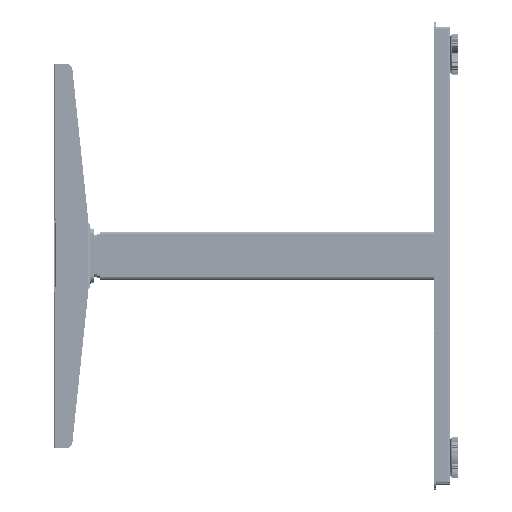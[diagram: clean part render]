
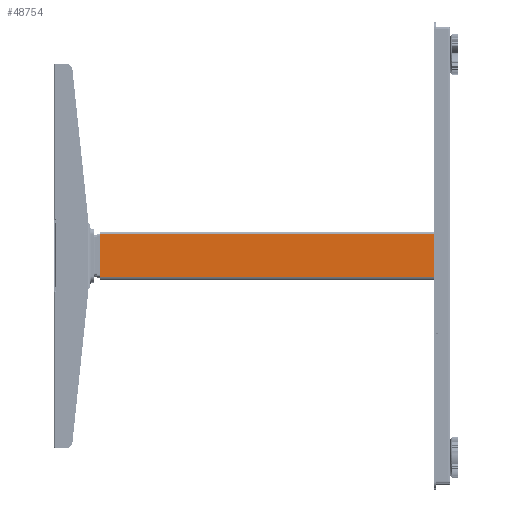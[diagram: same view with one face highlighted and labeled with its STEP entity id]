
A CAD part, top view. The second image highlights one B-rep face of the part: STEP entity #48754.
In plain terms, the highlighted planar face has unit normal (0, 0, 1) as drawn and (0, 1, 0) by its records, which use the part's own axes.
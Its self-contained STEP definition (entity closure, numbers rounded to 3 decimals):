
#47790=DIRECTION('',(-1.,0.,0.));
#47791=VECTOR('',#47790,64.);
#47792=CARTESIAN_POINT('',(32.,35.,0.));
#47793=LINE('',#47792,#47791);
#47845=DIRECTION('',(0.,0.,-1.));
#47846=VECTOR('',#47845,500.);
#47847=CARTESIAN_POINT('',(32.,35.,500.));
#47848=LINE('',#47847,#47846);
#47877=DIRECTION('',(0.,0.,1.));
#47878=VECTOR('',#47877,500.);
#47879=CARTESIAN_POINT('',(-32.,35.,0.));
#47880=LINE('',#47879,#47878);
#47885=DIRECTION('',(-1.,0.,0.));
#47886=VECTOR('',#47885,64.);
#47887=CARTESIAN_POINT('',(32.,35.,500.));
#47888=LINE('',#47887,#47886);
#48410=CARTESIAN_POINT('',(32.,35.,0.));
#48412=VERTEX_POINT('',#48410);
#48413=CARTESIAN_POINT('',(-32.,35.,0.));
#48414=VERTEX_POINT('',#48413);
#48443=CARTESIAN_POINT('',(32.,35.,500.));
#48444=VERTEX_POINT('',#48443);
#48455=CARTESIAN_POINT('',(-32.,35.,500.));
#48456=VERTEX_POINT('',#48455);
#48742=CARTESIAN_POINT('',(35.,35.,0.));
#48743=DIRECTION('',(0.,1.,0.));
#48744=DIRECTION('',(-1.,0.,0.));
#48745=AXIS2_PLACEMENT_3D('',#48742,#48743,#48744);
#48746=PLANE('',#48745);
#48747=ORIENTED_EDGE('',*,*,#48653,.F.);
#48749=ORIENTED_EDGE('',*,*,#48748,.T.);
#48750=ORIENTED_EDGE('',*,*,#48734,.F.);
#48751=ORIENTED_EDGE('',*,*,#48608,.F.);
#48752=EDGE_LOOP('',(#48747,#48749,#48750,#48751));
#48753=FACE_OUTER_BOUND('',#48752,.F.);
#48754=ADVANCED_FACE('',(#48753),#48746,.T.);
#48608=EDGE_CURVE('',#48412,#48414,#47793,.T.);
#48653=EDGE_CURVE('',#48444,#48412,#47848,.T.);
#48734=EDGE_CURVE('',#48414,#48456,#47880,.T.);
#48748=EDGE_CURVE('',#48444,#48456,#47888,.T.);
